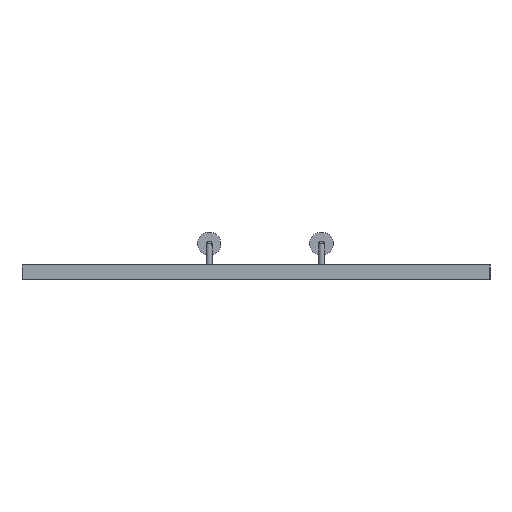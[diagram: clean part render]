
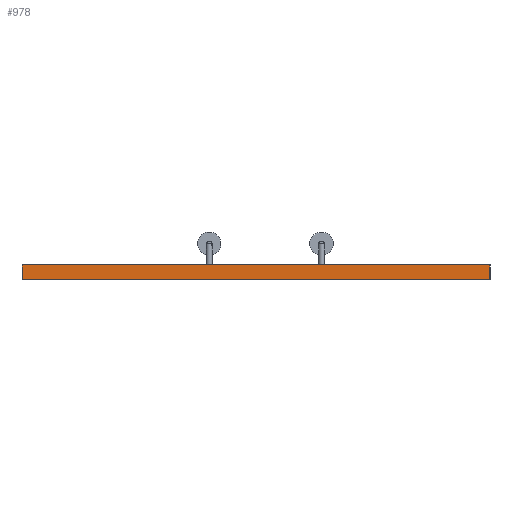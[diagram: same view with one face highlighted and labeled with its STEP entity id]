
A CAD part, left-side view. The second image highlights one B-rep face of the part: STEP entity #978.
In plain terms, the highlighted planar face has unit normal (-1, 0, 0).
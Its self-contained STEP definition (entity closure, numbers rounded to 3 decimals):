
#797 = PLANE('',#798);
#798 = AXIS2_PLACEMENT_3D('',#799,#800,#801);
#799 = CARTESIAN_POINT('',(80.,-50.,0.));
#800 = DIRECTION('',(0.,-1.,0.));
#801 = DIRECTION('',(-1.,0.,0.));
#822 = VERTEX_POINT('',#823);
#823 = CARTESIAN_POINT('',(0.,-50.,1.6));
#837 = PLANE('',#838);
#838 = AXIS2_PLACEMENT_3D('',#839,#840,#841);
#839 = CARTESIAN_POINT('',(40.,-25.,1.6));
#840 = DIRECTION('',(-0.,-0.,-1.));
#841 = DIRECTION('',(-1.,0.,0.));
#849 = EDGE_CURVE('',#850,#822,#852,.T.);
#850 = VERTEX_POINT('',#851);
#851 = CARTESIAN_POINT('',(0.,-50.,0.));
#852 = SURFACE_CURVE('',#853,(#857,#864),.PCURVE_S1.);
#853 = LINE('',#854,#855);
#854 = CARTESIAN_POINT('',(0.,-50.,0.));
#855 = VECTOR('',#856,1.);
#856 = DIRECTION('',(0.,0.,1.));
#857 = PCURVE('',#797,#858);
#858 = DEFINITIONAL_REPRESENTATION('',(#859),#863);
#859 = LINE('',#860,#861);
#860 = CARTESIAN_POINT('',(80.,0.));
#861 = VECTOR('',#862,1.);
#862 = DIRECTION('',(0.,-1.));
#863 = ( GEOMETRIC_REPRESENTATION_CONTEXT(2) 
PARAMETRIC_REPRESENTATION_CONTEXT() REPRESENTATION_CONTEXT('2D SPACE',''
  ) );
#864 = PCURVE('',#865,#870);
#865 = PLANE('',#866);
#866 = AXIS2_PLACEMENT_3D('',#867,#868,#869);
#867 = CARTESIAN_POINT('',(0.,-50.,0.));
#868 = DIRECTION('',(-1.,0.,0.));
#869 = DIRECTION('',(0.,1.,0.));
#870 = DEFINITIONAL_REPRESENTATION('',(#871),#875);
#871 = LINE('',#872,#873);
#872 = CARTESIAN_POINT('',(0.,0.));
#873 = VECTOR('',#874,1.);
#874 = DIRECTION('',(0.,-1.));
#875 = ( GEOMETRIC_REPRESENTATION_CONTEXT(2) 
PARAMETRIC_REPRESENTATION_CONTEXT() REPRESENTATION_CONTEXT('2D SPACE',''
  ) );
#891 = PLANE('',#892);
#892 = AXIS2_PLACEMENT_3D('',#893,#894,#895);
#893 = CARTESIAN_POINT('',(40.,-25.,0.));
#894 = DIRECTION('',(-0.,-0.,-1.));
#895 = DIRECTION('',(-1.,0.,0.));
#924 = PLANE('',#925);
#925 = AXIS2_PLACEMENT_3D('',#926,#927,#928);
#926 = CARTESIAN_POINT('',(0.,0.,0.));
#927 = DIRECTION('',(0.,1.,0.));
#928 = DIRECTION('',(1.,0.,0.));
#978 = ADVANCED_FACE('',(#979),#865,.T.);
#979 = FACE_BOUND('',#980,.T.);
#980 = EDGE_LOOP('',(#981,#982,#1005,#1028));
#981 = ORIENTED_EDGE('',*,*,#849,.T.);
#982 = ORIENTED_EDGE('',*,*,#983,.T.);
#983 = EDGE_CURVE('',#822,#984,#986,.T.);
#984 = VERTEX_POINT('',#985);
#985 = CARTESIAN_POINT('',(0.,0.,1.6));
#986 = SURFACE_CURVE('',#987,(#991,#998),.PCURVE_S1.);
#987 = LINE('',#988,#989);
#988 = CARTESIAN_POINT('',(0.,-50.,1.6));
#989 = VECTOR('',#990,1.);
#990 = DIRECTION('',(0.,1.,0.));
#991 = PCURVE('',#865,#992);
#992 = DEFINITIONAL_REPRESENTATION('',(#993),#997);
#993 = LINE('',#994,#995);
#994 = CARTESIAN_POINT('',(0.,-1.6));
#995 = VECTOR('',#996,1.);
#996 = DIRECTION('',(1.,0.));
#997 = ( GEOMETRIC_REPRESENTATION_CONTEXT(2) 
PARAMETRIC_REPRESENTATION_CONTEXT() REPRESENTATION_CONTEXT('2D SPACE',''
  ) );
#998 = PCURVE('',#837,#999);
#999 = DEFINITIONAL_REPRESENTATION('',(#1000),#1004);
#1000 = LINE('',#1001,#1002);
#1001 = CARTESIAN_POINT('',(40.,-25.));
#1002 = VECTOR('',#1003,1.);
#1003 = DIRECTION('',(0.,1.));
#1004 = ( GEOMETRIC_REPRESENTATION_CONTEXT(2) 
PARAMETRIC_REPRESENTATION_CONTEXT() REPRESENTATION_CONTEXT('2D SPACE',''
  ) );
#1005 = ORIENTED_EDGE('',*,*,#1006,.F.);
#1006 = EDGE_CURVE('',#1007,#984,#1009,.T.);
#1007 = VERTEX_POINT('',#1008);
#1008 = CARTESIAN_POINT('',(0.,-0.,0.));
#1009 = SURFACE_CURVE('',#1010,(#1014,#1021),.PCURVE_S1.);
#1010 = LINE('',#1011,#1012);
#1011 = CARTESIAN_POINT('',(0.,-0.,0.));
#1012 = VECTOR('',#1013,1.);
#1013 = DIRECTION('',(0.,0.,1.));
#1014 = PCURVE('',#865,#1015);
#1015 = DEFINITIONAL_REPRESENTATION('',(#1016),#1020);
#1016 = LINE('',#1017,#1018);
#1017 = CARTESIAN_POINT('',(50.,0.));
#1018 = VECTOR('',#1019,1.);
#1019 = DIRECTION('',(0.,-1.));
#1020 = ( GEOMETRIC_REPRESENTATION_CONTEXT(2) 
PARAMETRIC_REPRESENTATION_CONTEXT() REPRESENTATION_CONTEXT('2D SPACE',''
  ) );
#1021 = PCURVE('',#924,#1022);
#1022 = DEFINITIONAL_REPRESENTATION('',(#1023),#1027);
#1023 = LINE('',#1024,#1025);
#1024 = CARTESIAN_POINT('',(0.,0.));
#1025 = VECTOR('',#1026,1.);
#1026 = DIRECTION('',(0.,-1.));
#1027 = ( GEOMETRIC_REPRESENTATION_CONTEXT(2) 
PARAMETRIC_REPRESENTATION_CONTEXT() REPRESENTATION_CONTEXT('2D SPACE',''
  ) );
#1028 = ORIENTED_EDGE('',*,*,#1029,.F.);
#1029 = EDGE_CURVE('',#850,#1007,#1030,.T.);
#1030 = SURFACE_CURVE('',#1031,(#1035,#1042),.PCURVE_S1.);
#1031 = LINE('',#1032,#1033);
#1032 = CARTESIAN_POINT('',(0.,-50.,0.));
#1033 = VECTOR('',#1034,1.);
#1034 = DIRECTION('',(0.,1.,0.));
#1035 = PCURVE('',#865,#1036);
#1036 = DEFINITIONAL_REPRESENTATION('',(#1037),#1041);
#1037 = LINE('',#1038,#1039);
#1038 = CARTESIAN_POINT('',(0.,0.));
#1039 = VECTOR('',#1040,1.);
#1040 = DIRECTION('',(1.,0.));
#1041 = ( GEOMETRIC_REPRESENTATION_CONTEXT(2) 
PARAMETRIC_REPRESENTATION_CONTEXT() REPRESENTATION_CONTEXT('2D SPACE',''
  ) );
#1042 = PCURVE('',#891,#1043);
#1043 = DEFINITIONAL_REPRESENTATION('',(#1044),#1048);
#1044 = LINE('',#1045,#1046);
#1045 = CARTESIAN_POINT('',(40.,-25.));
#1046 = VECTOR('',#1047,1.);
#1047 = DIRECTION('',(0.,1.));
#1048 = ( GEOMETRIC_REPRESENTATION_CONTEXT(2) 
PARAMETRIC_REPRESENTATION_CONTEXT() REPRESENTATION_CONTEXT('2D SPACE',''
  ) );
